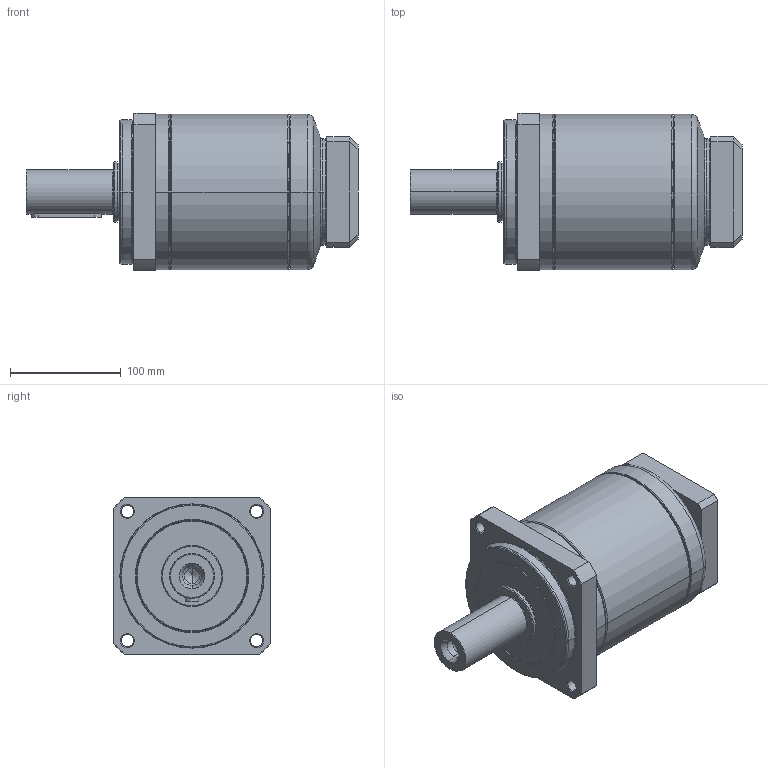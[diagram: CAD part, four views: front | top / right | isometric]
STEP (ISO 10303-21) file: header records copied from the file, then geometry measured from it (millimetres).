
FILE_DESCRIPTION((''),'2;1');
FILE_NAME('PA2-142_2ST_24-P0411500101_ASM','2016-05-11T',('d01943'),(''),'PRO/ENGINEER BY PARAMETRIC TECHNOLOGY CORPORATION, 2008410','PRO/ENGINEER BY PARAMETRIC TECHNOLOGY CORPORATION, 2008410','');
FILE_SCHEMA(('CONFIG_CONTROL_DESIGN'));
Length unit declared in the file: millimetre
Products named in the file (9): P1327510001; P0251500001; P1324500101; P0350500601; P0941501001; P0503500008; P0411500101; P1702500001; PA2-142_2ST_24-P0411500101_ASM
Assembly tree (8 placements, depth 2):
  PA2-142_2ST_24-P0411500101_ASM
    P1327510001
    P0251500001
    P1324500101
    P0350500601
    P0941501001
    P0503500008
    P0411500101
    P1702500001
Bounding box: 299.5 x 142 x 142 mm (x, y, z)
Volume: 2155468.5 mm3; surface area: 330638 mm2
Topology: 8 solids, 8 shells, 469 faces, 1024 edges, 590 vertices
Faces by surface type: cone 146, cylinder 133, torus 88, plane 86, bspline 16
Entity records: 17499 total; most frequent: CARTESIAN_POINT 6957, DIRECTION 2386, ORIENTED_EDGE 2008, AXIS2_PLACEMENT_3D 1017, EDGE_CURVE 1004, VERTEX_POINT 590, CIRCLE 547, EDGE_LOOP 532
